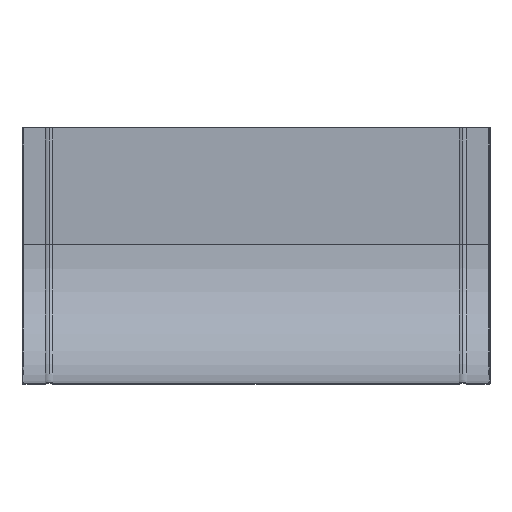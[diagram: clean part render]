
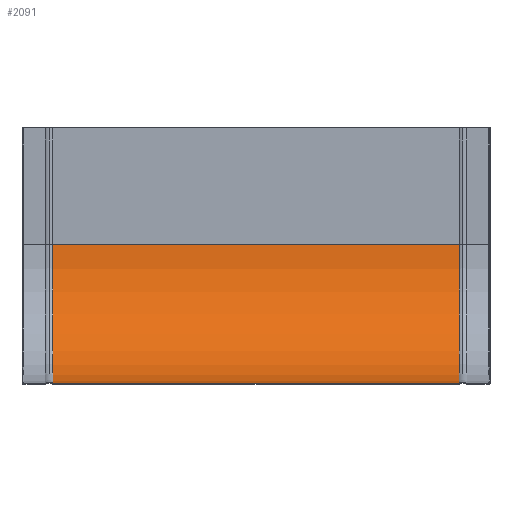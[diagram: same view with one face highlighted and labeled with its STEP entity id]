
A CAD part, top view. The second image highlights one B-rep face of the part: STEP entity #2091.
In plain terms, the highlighted cylindrical face has radius 149.2 mm (diameter 298.4 mm), a partial arc.
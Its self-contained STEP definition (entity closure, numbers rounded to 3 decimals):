
#105 = AXIS2_PLACEMENT_3D ( 'NONE', #1872, #1627, #1241 ) ;
#125 = VERTEX_POINT ( 'NONE', #1355 ) ;
#332 = VERTEX_POINT ( 'NONE', #2227 ) ;
#367 = VECTOR ( 'NONE', #1082, 1000. ) ;
#389 = EDGE_CURVE ( 'NONE', #574, #332, #2687, .T. ) ;
#476 = LINE ( 'NONE', #2153, #367 ) ;
#540 = ORIENTED_EDGE ( 'NONE', *, *, #1717, .T. ) ;
#574 = VERTEX_POINT ( 'NONE', #2166 ) ;
#656 = LINE ( 'NONE', #2094, #1017 ) ;
#717 = CARTESIAN_POINT ( 'NONE',  ( 217.767, 0.8, -125. ) ) ;
#764 = AXIS2_PLACEMENT_3D ( 'NONE', #2240, #2446, #1212 ) ;
#776 = CYLINDRICAL_SURFACE ( 'NONE', #764, 149.2 ) ;
#1017 = VECTOR ( 'NONE', #1521, 1000. ) ;
#1055 = ORIENTED_EDGE ( 'NONE', *, *, #389, .F. ) ;
#1082 = DIRECTION ( 'NONE',  ( -1., 0., 0. ) ) ;
#1155 = EDGE_CURVE ( 'NONE', #1962, #125, #1951, .T. ) ;
#1212 = DIRECTION ( 'NONE',  ( 0., 0., -1. ) ) ;
#1241 = DIRECTION ( 'NONE',  ( 0., 0., -1. ) ) ;
#1300 = ORIENTED_EDGE ( 'NONE', *, *, #1155, .T. ) ;
#1355 = CARTESIAN_POINT ( 'NONE',  ( 217.767, 150., -274.2 ) ) ;
#1438 = FACE_OUTER_BOUND ( 'NONE', #1517, .T. ) ;
#1502 = AXIS2_PLACEMENT_3D ( 'NONE', #2110, #2473, #2067 ) ;
#1517 = EDGE_LOOP ( 'NONE', ( #2496, #1300, #540, #1055 ) ) ;
#1521 = DIRECTION ( 'NONE',  ( -1., 0., 0. ) ) ;
#1627 = DIRECTION ( 'NONE',  ( 1., 0., 0. ) ) ;
#1717 = EDGE_CURVE ( 'NONE', #125, #332, #656, .T. ) ;
#1872 = CARTESIAN_POINT ( 'NONE',  ( 217.767, 150., -125. ) ) ;
#1951 = CIRCLE ( 'NONE', #105, 149.2 ) ;
#1962 = VERTEX_POINT ( 'NONE', #717 ) ;
#2067 = DIRECTION ( 'NONE',  ( 0., 0., -1. ) ) ;
#2091 = ADVANCED_FACE ( 'NONE', ( #1438 ), #776, .F. ) ;
#2094 = CARTESIAN_POINT ( 'NONE',  ( -217.767, 150., -274.2 ) ) ;
#2110 = CARTESIAN_POINT ( 'NONE',  ( -217.767, 150., -125. ) ) ;
#2153 = CARTESIAN_POINT ( 'NONE',  ( -217.767, 0.8, -125. ) ) ;
#2166 = CARTESIAN_POINT ( 'NONE',  ( -217.767, 0.8, -125. ) ) ;
#2182 = EDGE_CURVE ( 'NONE', #1962, #574, #476, .T. ) ;
#2227 = CARTESIAN_POINT ( 'NONE',  ( -217.767, 150., -274.2 ) ) ;
#2240 = CARTESIAN_POINT ( 'NONE',  ( 0., 150., -125. ) ) ;
#2446 = DIRECTION ( 'NONE',  ( 1., 0., 0. ) ) ;
#2473 = DIRECTION ( 'NONE',  ( 1., 0., 0. ) ) ;
#2496 = ORIENTED_EDGE ( 'NONE', *, *, #2182, .F. ) ;
#2687 = CIRCLE ( 'NONE', #1502, 149.2 ) ;
